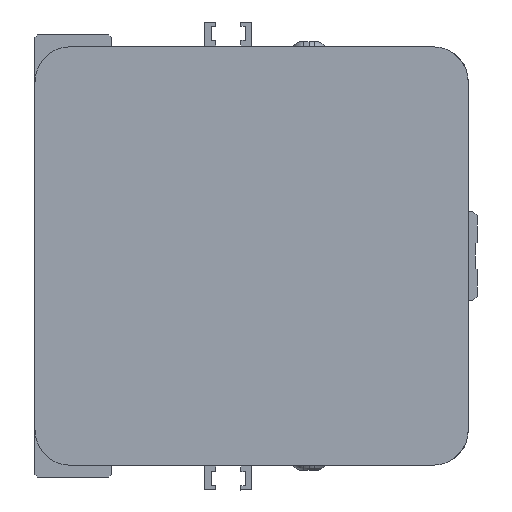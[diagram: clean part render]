
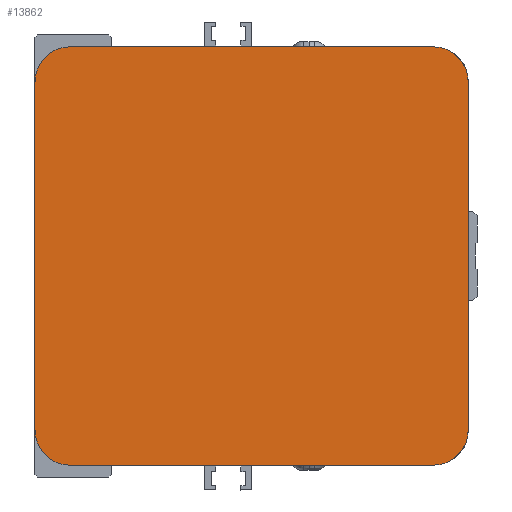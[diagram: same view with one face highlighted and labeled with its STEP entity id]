
A CAD part, left-side view. The second image highlights one B-rep face of the part: STEP entity #13862.
In plain terms, the highlighted planar face has unit normal (-1, 0, 0) as drawn and (0, 0, -1) by its records, which use the part's own axes.
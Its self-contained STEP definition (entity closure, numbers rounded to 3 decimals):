
#1012=CIRCLE('',#14865,6.);
#1013=CIRCLE('',#14870,6.);
#1021=CIRCLE('',#14881,6.);
#1022=CIRCLE('',#14883,6.);
#1710=FACE_OUTER_BOUND('',#2559,.T.);
#2559=EDGE_LOOP('',(#9702,#9703,#9704,#9705,#9706,#9707,#9708,#9709));
#3661=LINE('',#19541,#4937);
#3666=LINE('',#19552,#4942);
#3673=LINE('',#19567,#4949);
#3677=LINE('',#19652,#4953);
#4937=VECTOR('',#16179,61.5);
#4942=VECTOR('',#16190,59.);
#4949=VECTOR('',#16207,61.5);
#4953=VECTOR('',#16233,59.);
#6213=VERTEX_POINT('',#19537);
#6215=VERTEX_POINT('',#19540);
#6216=VERTEX_POINT('',#19545);
#6218=VERTEX_POINT('',#19551);
#6220=VERTEX_POINT('',#19562);
#6221=VERTEX_POINT('',#19566);
#6230=VERTEX_POINT('',#19647);
#6231=VERTEX_POINT('',#19651);
#7619=EDGE_CURVE('',#6215,#6213,#3661,.T.);
#7622=EDGE_CURVE('',#6215,#6216,#1012,.T.);
#7625=EDGE_CURVE('',#6218,#6216,#3666,.T.);
#7631=EDGE_CURVE('',#6218,#6220,#1013,.T.);
#7633=EDGE_CURVE('',#6221,#6220,#3673,.T.);
#7646=EDGE_CURVE('',#6230,#6213,#1021,.T.);
#7647=EDGE_CURVE('',#6230,#6231,#3677,.T.);
#7648=EDGE_CURVE('',#6221,#6231,#1022,.T.);
#9702=ORIENTED_EDGE('',*,*,#7631,.F.);
#9703=ORIENTED_EDGE('',*,*,#7625,.T.);
#9704=ORIENTED_EDGE('',*,*,#7622,.F.);
#9705=ORIENTED_EDGE('',*,*,#7619,.T.);
#9706=ORIENTED_EDGE('',*,*,#7646,.F.);
#9707=ORIENTED_EDGE('',*,*,#7647,.T.);
#9708=ORIENTED_EDGE('',*,*,#7648,.F.);
#9709=ORIENTED_EDGE('',*,*,#7633,.T.);
#13330=PLANE('',#14882);
#13862=ADVANCED_FACE('',(#1710),#13330,.F.);
#14865=AXIS2_PLACEMENT_3D('',#19546,#16184,#16185);
#14870=AXIS2_PLACEMENT_3D('',#19563,#16202,#16203);
#14881=AXIS2_PLACEMENT_3D('',#19649,#16229,#16230);
#14882=AXIS2_PLACEMENT_3D('',#19650,#16231,#16232);
#14883=AXIS2_PLACEMENT_3D('',#19653,#16234,#16235);
#16179=DIRECTION('',(0.,-1.,0.));
#16184=DIRECTION('center_axis',(0.,0.,
1.));
#16185=DIRECTION('ref_axis',(0.707,0.707,0.));
#16190=DIRECTION('',(1.,0.,0.));
#16202=DIRECTION('center_axis',(0.,0.,
1.));
#16203=DIRECTION('ref_axis',(-0.707,0.707,0.));
#16207=DIRECTION('',(0.,1.,0.));
#16229=DIRECTION('center_axis',(0.,0.,
1.));
#16230=DIRECTION('ref_axis',(0.707,-0.707,0.));
#16231=DIRECTION('center_axis',(0.,0.,
1.));
#16232=DIRECTION('ref_axis',(1.,0.,0.));
#16233=DIRECTION('',(-1.,0.,0.));
#16234=DIRECTION('center_axis',(0.,0.,
1.));
#16235=DIRECTION('ref_axis',(-0.707,-0.707,0.));
#19537=CARTESIAN_POINT('',(75.2,7.5,-707.));
#19540=CARTESIAN_POINT('',(75.2,69.,-707.));
#19541=CARTESIAN_POINT('',(75.2,69.,-707.));
#19545=CARTESIAN_POINT('',(69.2,75.,-707.));
#19546=CARTESIAN_POINT('Origin',(69.2,69.,-707.));
#19551=CARTESIAN_POINT('',(10.2,75.,-707.));
#19552=CARTESIAN_POINT('',(10.2,75.,-707.));
#19562=CARTESIAN_POINT('',(4.2,69.,-707.));
#19563=CARTESIAN_POINT('Origin',(10.2,69.,-707.));
#19566=CARTESIAN_POINT('',(4.2,7.5,-707.));
#19567=CARTESIAN_POINT('',(4.2,7.5,-707.));
#19647=CARTESIAN_POINT('',(69.2,1.5,-707.));
#19649=CARTESIAN_POINT('Origin',(69.2,7.5,-707.));
#19650=CARTESIAN_POINT('Origin',(39.7,38.25,-707.));
#19651=CARTESIAN_POINT('',(10.2,1.5,-707.));
#19652=CARTESIAN_POINT('',(69.2,1.5,-707.));
#19653=CARTESIAN_POINT('Origin',(10.2,7.5,-707.));
